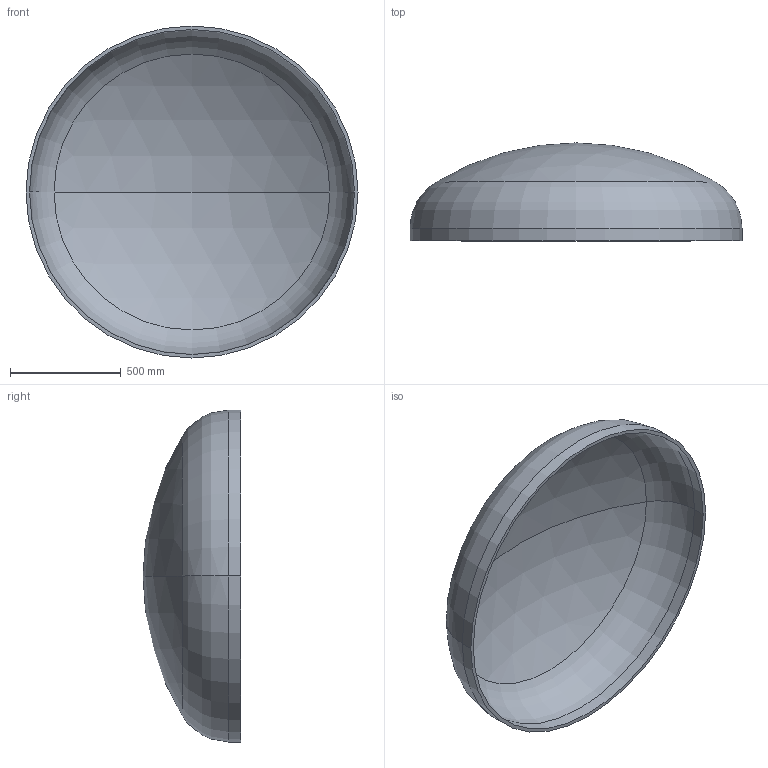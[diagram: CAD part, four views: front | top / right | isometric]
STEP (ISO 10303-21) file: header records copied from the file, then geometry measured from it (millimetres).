
FILE_DESCRIPTION (( 'STEP AP203' ), '1' );
FILE_NAME ('DIN 28013 Korbbogenform_-_Boden DIN 28013 - 1500 x 55 - I - s=16.step', '2016-07-01T10:37:19', ( '' ), ( '' ), 'SwSTEP 2.0', 'SolidWorks 2013', '' );
FILE_SCHEMA (( 'CONFIG_CONTROL_DESIGN' ));
Length unit declared in the file: millimetre
Products named in the file (1): DIN 28013 Korbbogenform_-_Boden DIN 28013 - 1500 x 55 - I - s=16
Bounding box: 1500 x 442.22 x 1500 mm (x, y, z)
Volume: 42680895.8 mm3; surface area: 5410240.2 mm2
Topology: 1 solids, 1 shells, 13 faces, 24 edges, 14 vertices
Faces by surface type: torus 4, cylinder 4, sphere 4, plane 1
Entity records: 407 total; most frequent: DIRECTION 72, CARTESIAN_POINT 52, ORIENTED_EDGE 48, AXIS2_PLACEMENT_3D 34, EDGE_CURVE 24, CIRCLE 20, EDGE_LOOP 14, VERTEX_POINT 14
